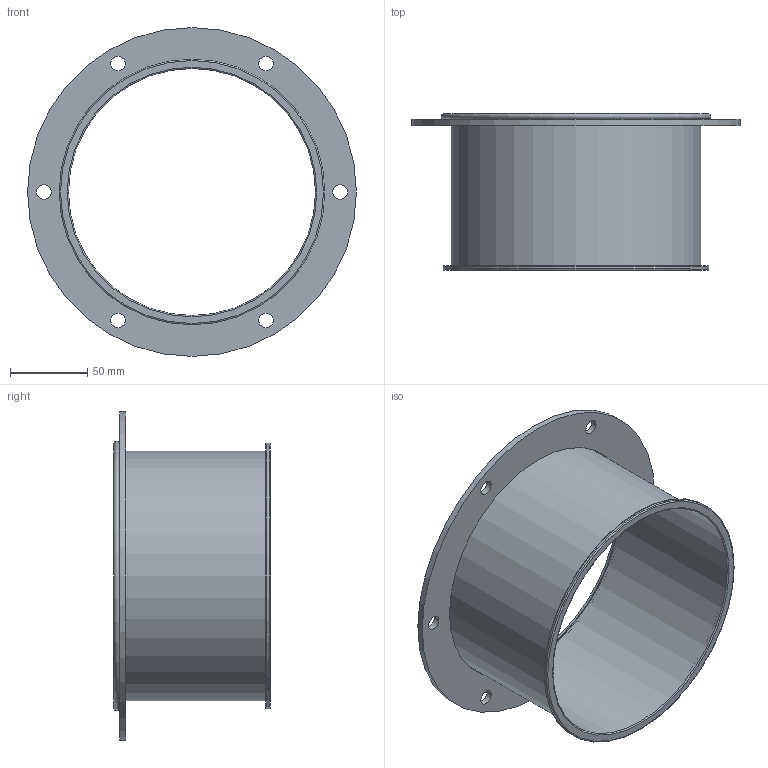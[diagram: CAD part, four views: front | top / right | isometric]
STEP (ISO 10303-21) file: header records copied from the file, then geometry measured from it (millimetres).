
FILE_DESCRIPTION(/* description */ (''),/* implementation_level */ '2;1');
FILE_NAME(/* name */ 'EA125-41B.stp',/* time_stamp */ '2021-02-23T13:44:23+01:00',/* author */ (''),/* organization */ (''),/* preprocessor_version */ 'ST-DEVELOPER v11',/* originating_system */ 'SIEMENS UGS NX 6.0',/* authorisation */ '');
FILE_SCHEMA (('CONFIG_CONTROL_DESIGN'));
Length unit declared in the file: millimetre
Products named in the file (1): gars4FD7yzh2
Bounding box: 213 x 101.5 x 213 mm (x, y, z)
Volume: 118466.9 mm3; surface area: 162094.9 mm2
Topology: 3 solids, 3 shells, 30 faces, 65 edges, 45 vertices
Faces by surface type: cylinder 15, plane 10, torus 5
Full cylindrical faces by diameter (mm): 9.5 x6, 160 x2, 161.6 x2, 163 x1, 171.6 x2, 172 x1, 213 x1
Entity records: 782 total; most frequent: DIRECTION 134, CARTESIAN_POINT 103, FACE_BOUND 72, EDGE_LOOP 72, ORIENTED_EDGE 72, AXIS2_PLACEMENT_3D 67, VERTEX_POINT 36, EDGE_CURVE 36
